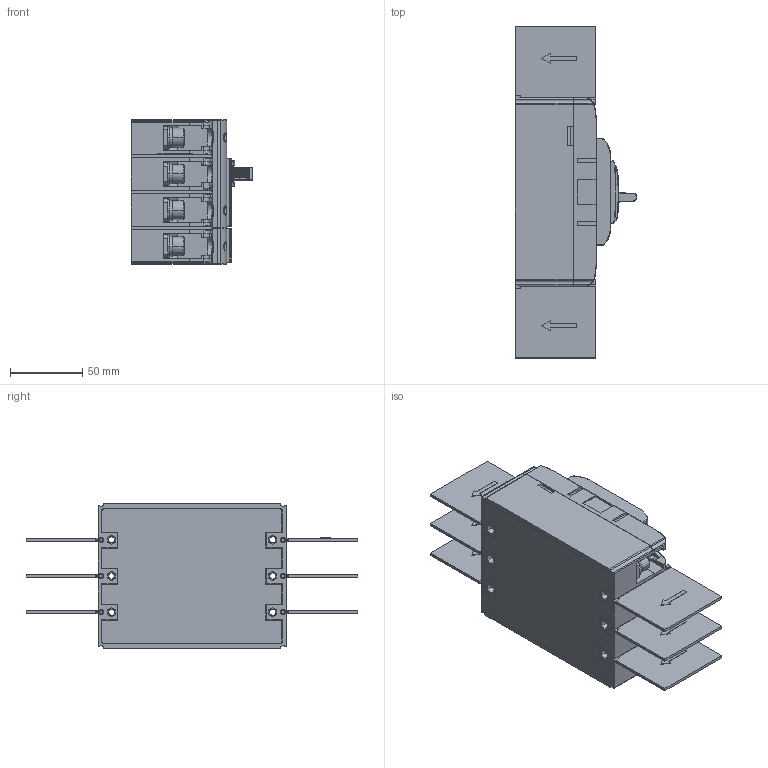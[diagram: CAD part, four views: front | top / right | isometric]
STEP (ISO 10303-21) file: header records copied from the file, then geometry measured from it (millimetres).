
FILE_DESCRIPTION((''),'2;1');
FILE_NAME('TGM1N_K_G_H_-125_L_M_-4P_ASM','2019-03-14T',('Administrator'),(''),'PRO/ENGINEER BY PARAMETRIC TECHNOLOGY CORPORATION, 2017170','PRO/ENGINEER BY PARAMETRIC TECHNOLOGY CORPORATION, 2017170','');
FILE_SCHEMA(('CONFIG_CONTROL_DESIGN'));
Products named in the file (28): 8TZD-024-1168_2_1; 5TZD-024-1168_ASM_2_ASM_1_ASM; MANIFOLD_SOLID_BREP_18100; MANIFOLD_SOLID_BREP_18188; MANIFOLD_SOLID_BREP_18276; 8TZD-585-1222_2_1_ASM; 5TZD-552-1153_ASM_2_ASM_1_ASM; 5TZD-552-1154_ASM_2_ASM_1_ASM; 8TZD-585-1223_2_1; 5TZD-599-1156_ASM_2_ASM_1_ASM; 5TZD-599-1158_ASM_2_ASM_1_ASM; 6TZD-716-1022_ASM_2_ASM_1_ASM; 8TZD-742-1352_2_1; 8TZD-742-1353_2_1; Q-TZJ0301_1-M8X16_1_1; 8TZD-750-1059_2_1; 8TZD_253_3030_1_1; 8TZD-325-1048_1_1; 8TZD_315_3115_2_1; 8TZD_315_3109-1_1_1; 8TZD_253_3005_1_1; 8TZD_315_3116-1_1_1; GB-T9074_4-M3_5X18_1_1; GB-T9074_3-M3X6_1_1; 2TZD-259-1120_ASM_2_ASM_1_ASM; 2TZD-259-1120_ASM_ASM_1_ASM; 8TZD-742-1342; TGM1N_K_G_H_-125_L_M_-4P_ASM
Assembly tree (60 placements, depth 7):
  TGM1N_K_G_H_-125_L_M_-4P_ASM
    2TZD-259-1120_ASM_ASM_1_ASM
      2TZD-259-1120_ASM_2_ASM_1_ASM
        5TZD-024-1168_ASM_2_ASM_1_ASM
          8TZD-024-1168_2_1
        5TZD-552-1154_ASM_2_ASM_1_ASM  x4
          5TZD-552-1153_ASM_2_ASM_1_ASM
            8TZD-585-1222_2_1_ASM
              MANIFOLD_SOLID_BREP_18100
              MANIFOLD_SOLID_BREP_18188
              MANIFOLD_SOLID_BREP_18276
        6TZD-716-1022_ASM_2_ASM_1_ASM
          5TZD-599-1158_ASM_2_ASM_1_ASM
            5TZD-599-1156_ASM_2_ASM_1_ASM  x4
              8TZD-585-1223_2_1
        8TZD-742-1352_2_1  x4
        8TZD-742-1353_2_1  x4
        Q-TZJ0301_1-M8X16_1_1  x8
        8TZD-750-1059_2_1
        8TZD_253_3030_1_1
        8TZD-325-1048_1_1
        8TZD_315_3115_2_1
        8TZD_315_3109-1_1_1
        8TZD_253_3005_1_1
        8TZD_315_3116-1_1_1
        GB-T9074_4-M3_5X18_1_1  x6
        GB-T9074_3-M3X6_1_1  x5
    8TZD-742-1342  x6
Bounding box: 83.83 x 229.75 x 100 mm (x, y, z)
Volume: 741867.5 mm3; surface area: 258841.5 mm2
Topology: 57 solids, 99 shells, 4826 faces, 13167 edges, 8610 vertices
Faces by surface type: plane 3254, cylinder 1048, cone 186, bspline 136, torus 90, sphere 70, extrusion 42
Entity records: 133706 total; most frequent: CARTESIAN_POINT 41521, ORIENTED_EDGE 19762, DIRECTION 18158, EDGE_CURVE 9891, VECTOR 6936, LINE 6894, VERTEX_POINT 6512, AXIS2_PLACEMENT_3D 5611
